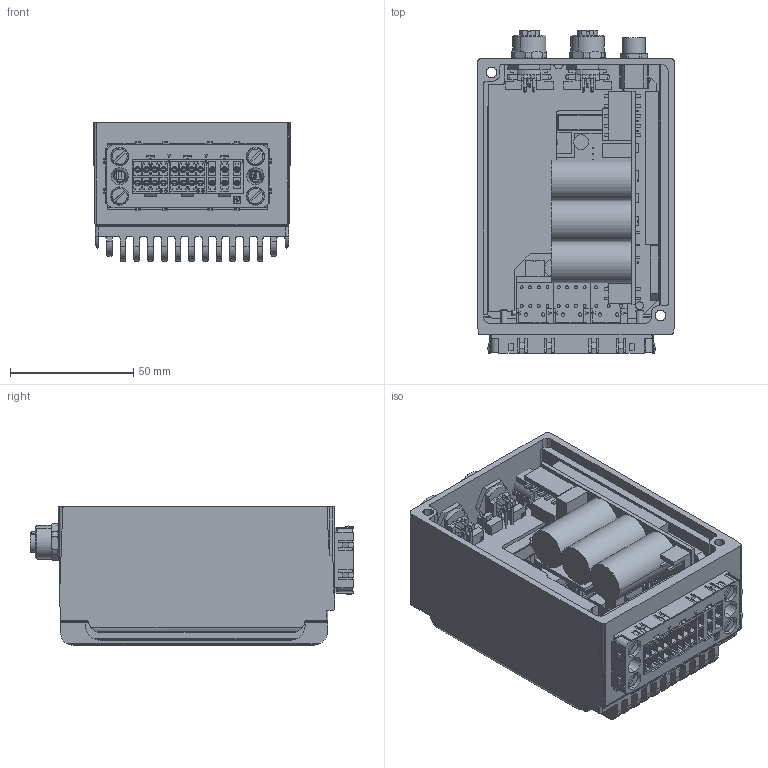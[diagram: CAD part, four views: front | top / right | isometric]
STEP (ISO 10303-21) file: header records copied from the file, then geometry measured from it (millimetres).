
FILE_DESCRIPTION(('STEP AP214'),'1');
FILE_NAME('M:/TSI/DIS-2-Zeichnungen/DIS2_310_2_FB_STO.stp','2014-01-28T16:32:35',(''),(''),'Spatial InterOp 3D',' ',' ');
FILE_SCHEMA(('automotive_design'));
Length unit declared in the file: inch
Products named in the file (135): ACIS-VolumenkÃ¶rper_46; ACIS-VolumenkÃ¶rper_48; ACIS-VolumenkÃ¶rper_49; ACIS-VolumenkÃ¶rper_710; ACIS-VolumenkÃ¶rper_786; ACIS-VolumenkÃ¶rper_1312; ACIS-VolumenkÃ¶rper_1376; ACIS-VolumenkÃ¶rper_1630; ACIS-VolumenkÃ¶rper_2156; ACIS-VolumenkÃ¶rper_2220; ACIS-VolumenkÃ¶rper_2474; ACIS-VolumenkÃ¶rper_2492; ACIS-VolumenkÃ¶rper_2510; ACIS-VolumenkÃ¶rper_2528; ACIS-VolumenkÃ¶rper_2558; 1; 2; FlÃ¤chenseite_2898; FlÃ¤chenseite_2942; FlÃ¤chenseite_2978; FlÃ¤chenseite_3010; FlÃ¤chenseite_3374; FlÃ¤chenseite_3390; FlÃ¤chenseite_3422; FlÃ¤chenseite_3467; FlÃ¤chenseite_3511; FlÃ¤chenseite_3547; FlÃ¤chenseite_3580; ACIS-VolumenkÃ¶rper_3648; FlÃ¤chenseite_3710; FlÃ¤chenseite_3716; FlÃ¤chenseite_3722; FlÃ¤chenseite_3728; FlÃ¤chenseite_3734; FlÃ¤chenseite_3740; FlÃ¤chenseite_3743; FlÃ¤chenseite_3746; FlÃ¤chenseite_3749; FlÃ¤chenseite_3778; ACIS-VolumenkÃ¶rper_3802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
Bounding box: 79.99 x 131.06 x 56 mm (x, y, z)
Volume: 213156.6 mm3; surface area: 162521.8 mm2
Topology: 52 solids, 225 shells, 4088 faces, 11825 edges, 9190 vertices
Faces by surface type: plane 2690, cylinder 1062, cone 224, torus 78, bspline 34
Full cylindrical faces by diameter (mm): 1.1 x10, 8.2 x2, 10 x2
Entity records: 178967 total; most frequent: CARTESIAN_POINT 27814, DIRECTION 22524, ORIENTED_EDGE 21138, EDGE_CURVE 10929, LINE 8606, VECTOR 8606, VERTEX_POINT 7499, AXIS2_PLACEMENT_3D 6959
